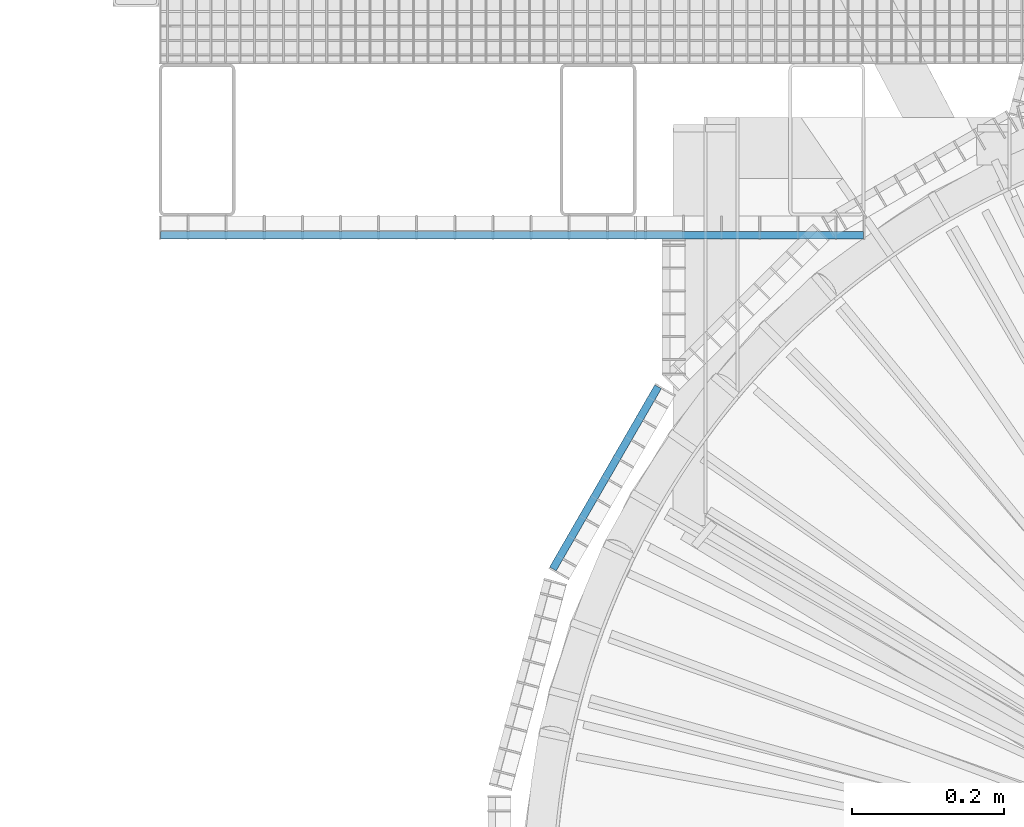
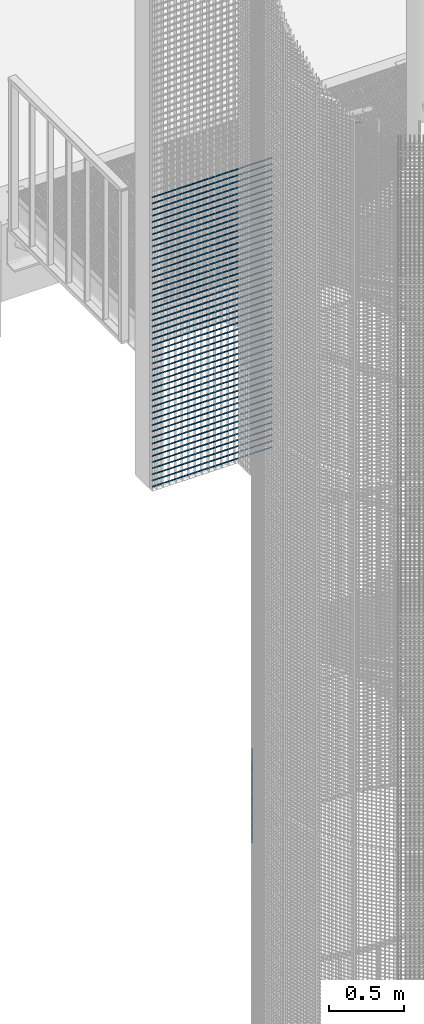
# One storey, part 209 of 1148: 68 beams, 2 elements without a shape of their own.
"""IFC2X3 building model written with IfcOpenShell, lengths in millimetres."""

from ifc_helpers import new_model, si_unit, frame, origin_with_axes, origin_2d_with_axis, place, context, subcontext, project, spatial, rectangle, extrude, material, type_object, element, aggregate, save


model = new_model("IFC2X3")

# Units and contexts
model_context = context("Model", 3, precision=1e-05, world=origin_with_axes())
body_context = subcontext(model_context, "Body", "Model", "MODEL_VIEW")
ifc_project = project(units=[si_unit("LENGTHUNIT", "METRE", prefix="MILLI"), si_unit("AREAUNIT", "SQUARE_METRE"), si_unit("VOLUMEUNIT", "CUBIC_METRE"), si_unit("MASSUNIT", "GRAM", prefix="KILO"), si_unit("TIMEUNIT", "SECOND"), si_unit("PLANEANGLEUNIT", "RADIAN"), si_unit("SOLIDANGLEUNIT", "STERADIAN"), si_unit("THERMODYNAMICTEMPERATUREUNIT", "DEGREE_CELSIUS"), si_unit("LUMINOUSINTENSITYUNIT", "LUMEN")], contexts=[model_context])

# Site, building, storey
site_placement = place(None, origin_with_axes())
site = spatial("IfcSite", under=ifc_project, at=site_placement, Name="Undefined", CompositionType="ELEMENT")
building_placement = place(site_placement, origin_with_axes())
building = spatial("IfcBuilding", under=site, at=building_placement, Name="Undefined", CompositionType="ELEMENT")
storey_placement = place(building_placement, origin_with_axes())
storey = spatial("IfcBuildingStorey", under=building, at=storey_placement, Name="Undefined", CompositionType="ELEMENT", Elevation=0.0)

# Assembly, beams
assembly_1_placement = place(storey_placement, origin_with_axes())
assembly_1 = element("IfcElementAssembly", 1, at=assembly_1_placement, inside=storey, Name="BORDURE", AssemblyPlace="NOTDEFINED", PredefinedType="NOTDEFINED")
ifc_material = material(Name="STEEL/S235JR")
beam_type = type_object("IfcBeamType", Name="PL2*10", PredefinedType="NOTDEFINED")
beam_1_placement = place(assembly_1_placement, frame((-1547.92041016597, 874.994689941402, 7554.998), z_axis=(0.0, -1.0, 0.0), x_axis=(1.0, 0.0, 0.0)))
beam_1 = element("IfcBeam", 2, at=beam_1_placement, type_object=beam_type, material=ifc_material, Name="ENTRETOISE", context=body_context, shape_type="SweptSolid", body=[
    extrude(rectangle(XDim=2.0, YDim=10.0, at=origin_2d_with_axis()), frame((922.0, 0.0, 0.0), z_axis=(-1.0, 0.0, 0.0), x_axis=(0.0, -1.0, 0.0)), (0.0, 0.0, 1.0), 922.0),
])
beam_2_placement = place(assembly_1_placement, frame((-1547.92041016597, 874.994689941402, 7504.998), z_axis=(0.0, -1.0, 0.0), x_axis=(1.0, 0.0, 0.0)))
beam_2 = element("IfcBeam", 3, at=beam_2_placement, type_object=beam_type, material=ifc_material, Name="ENTRETOISE", context=body_context, shape_type="SweptSolid", body=[
    extrude(rectangle(XDim=2.0, YDim=10.0, at=origin_2d_with_axis()), frame((922.0, 0.0, 0.0), z_axis=(-1.0, 0.0, 0.0), x_axis=(0.0, -1.0, 0.0)), (0.0, 0.0, 1.0), 922.0),
])
beam_3_placement = place(assembly_1_placement, frame((-1547.92041016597, 874.994689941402, 7454.998), z_axis=(0.0, -1.0, 0.0), x_axis=(1.0, 0.0, 0.0)))
beam_3 = element("IfcBeam", 4, at=beam_3_placement, type_object=beam_type, material=ifc_material, Name="ENTRETOISE", context=body_context, shape_type="SweptSolid", body=[
    extrude(rectangle(XDim=2.0, YDim=10.0, at=origin_2d_with_axis()), frame((922.0, 0.0, 0.0), z_axis=(-1.0, 0.0, 0.0), x_axis=(0.0, -1.0, 0.0)), (0.0, 0.0, 1.0), 922.0),
])
beam_4_placement = place(assembly_1_placement, frame((-1547.92041016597, 874.994689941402, 7404.998), z_axis=(0.0, -1.0, 0.0), x_axis=(1.0, 0.0, 0.0)))
beam_4 = element("IfcBeam", 5, at=beam_4_placement, type_object=beam_type, material=ifc_material, Name="ENTRETOISE", context=body_context, shape_type="SweptSolid", body=[
    extrude(rectangle(XDim=2.0, YDim=10.0, at=origin_2d_with_axis()), frame((922.0, 0.0, 0.0), z_axis=(-1.0, 0.0, 0.0), x_axis=(0.0, -1.0, 0.0)), (0.0, 0.0, 1.0), 922.0),
])
beam_5_placement = place(assembly_1_placement, frame((-1547.92041016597, 874.994689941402, 7354.998), z_axis=(0.0, -1.0, 0.0), x_axis=(1.0, 0.0, 0.0)))
beam_5 = element("IfcBeam", 6, at=beam_5_placement, type_object=beam_type, material=ifc_material, Name="ENTRETOISE", context=body_context, shape_type="SweptSolid", body=[
    extrude(rectangle(XDim=2.0, YDim=10.0, at=origin_2d_with_axis()), frame((922.0, 0.0, 0.0), z_axis=(-1.0, 0.0, 0.0), x_axis=(0.0, -1.0, 0.0)), (0.0, 0.0, 1.0), 922.0),
])
beam_6_placement = place(assembly_1_placement, frame((-1547.92041016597, 874.994689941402, 7304.998), z_axis=(0.0, -1.0, 0.0), x_axis=(1.0, 0.0, 0.0)))
beam_6 = element("IfcBeam", 7, at=beam_6_placement, type_object=beam_type, material=ifc_material, Name="ENTRETOISE", context=body_context, shape_type="SweptSolid", body=[
    extrude(rectangle(XDim=2.0, YDim=10.0, at=origin_2d_with_axis()), frame((922.0, 0.0, 0.0), z_axis=(-1.0, 0.0, 0.0), x_axis=(0.0, -1.0, 0.0)), (0.0, 0.0, 1.0), 922.0),
])
beam_7_placement = place(assembly_1_placement, frame((-1547.92041016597, 874.994689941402, 7254.998), z_axis=(0.0, -1.0, 0.0), x_axis=(1.0, 0.0, 0.0)))
beam_7 = element("IfcBeam", 8, at=beam_7_placement, type_object=beam_type, material=ifc_material, Name="ENTRETOISE", context=body_context, shape_type="SweptSolid", body=[
    extrude(rectangle(XDim=2.0, YDim=10.0, at=origin_2d_with_axis()), frame((922.0, 0.0, 0.0), z_axis=(-1.0, 0.0, 0.0), x_axis=(0.0, -1.0, 0.0)), (0.0, 0.0, 1.0), 922.0),
])
beam_8_placement = place(assembly_1_placement, frame((-1547.92041016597, 874.994689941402, 7204.998), z_axis=(0.0, -1.0, 0.0), x_axis=(1.0, 0.0, 0.0)))
beam_8 = element("IfcBeam", 9, at=beam_8_placement, type_object=beam_type, material=ifc_material, Name="ENTRETOISE", context=body_context, shape_type="SweptSolid", body=[
    extrude(rectangle(XDim=2.0, YDim=10.0, at=origin_2d_with_axis()), frame((922.0, 0.0, 0.0), z_axis=(-1.0, 0.0, 0.0), x_axis=(0.0, -1.0, 0.0)), (0.0, 0.0, 1.0), 922.0),
])
beam_9_placement = place(assembly_1_placement, frame((-1547.92041016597, 874.994689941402, 7154.998), z_axis=(0.0, -1.0, 0.0), x_axis=(1.0, 0.0, 0.0)))
beam_9 = element("IfcBeam", 10, at=beam_9_placement, type_object=beam_type, material=ifc_material, Name="ENTRETOISE", context=body_context, shape_type="SweptSolid", body=[
    extrude(rectangle(XDim=2.0, YDim=10.0, at=origin_2d_with_axis()), frame((922.0, 0.0, 0.0), z_axis=(-1.0, 0.0, 0.0), x_axis=(0.0, -1.0, 0.0)), (0.0, 0.0, 1.0), 922.0),
])
beam_10_placement = place(assembly_1_placement, frame((-1547.92041016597, 874.994689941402, 7104.998), z_axis=(0.0, -1.0, 0.0), x_axis=(1.0, 0.0, 0.0)))
beam_10 = element("IfcBeam", 11, at=beam_10_placement, type_object=beam_type, material=ifc_material, Name="ENTRETOISE", context=body_context, shape_type="SweptSolid", body=[
    extrude(rectangle(XDim=2.0, YDim=10.0, at=origin_2d_with_axis()), frame((922.0, 0.0, 0.0), z_axis=(-1.0, 0.0, 0.0), x_axis=(0.0, -1.0, 0.0)), (0.0, 0.0, 1.0), 922.0),
])
beam_11_placement = place(assembly_1_placement, frame((-1547.92041016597, 874.994689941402, 7054.998), z_axis=(0.0, -1.0, 0.0), x_axis=(1.0, 0.0, 0.0)))
beam_11 = element("IfcBeam", 12, at=beam_11_placement, type_object=beam_type, material=ifc_material, Name="ENTRETOISE", context=body_context, shape_type="SweptSolid", body=[
    extrude(rectangle(XDim=2.0, YDim=10.0, at=origin_2d_with_axis()), frame((922.0, 0.0, 0.0), z_axis=(-1.0, 0.0, 0.0), x_axis=(0.0, -1.0, 0.0)), (0.0, 0.0, 1.0), 922.0),
])
beam_12_placement = place(assembly_1_placement, frame((-1547.92041016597, 874.994689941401, 5904.998), z_axis=(0.0, -1.0, 0.0), x_axis=(1.0, 0.0, 0.0)))
beam_12 = element("IfcBeam", 13, at=beam_12_placement, type_object=beam_type, material=ifc_material, Name="ENTRETOISE", context=body_context, shape_type="SweptSolid", body=[
    extrude(rectangle(XDim=2.0, YDim=10.0, at=origin_2d_with_axis()), frame((922.0, 0.0, 0.0), z_axis=(-1.0, 0.0, 0.0), x_axis=(0.0, -1.0, 0.0)), (0.0, 0.0, 1.0), 922.0),
])
beam_13_placement = place(assembly_1_placement, frame((-1547.92041016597, 874.994689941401, 5954.998), z_axis=(0.0, -1.0, 0.0), x_axis=(1.0, 0.0, 0.0)))
beam_13 = element("IfcBeam", 14, at=beam_13_placement, type_object=beam_type, material=ifc_material, Name="ENTRETOISE", context=body_context, shape_type="SweptSolid", body=[
    extrude(rectangle(XDim=2.0, YDim=10.0, at=origin_2d_with_axis()), frame((922.0, 0.0, 0.0), z_axis=(-1.0, 0.0, 0.0), x_axis=(0.0, -1.0, 0.0)), (0.0, 0.0, 1.0), 922.0),
])
beam_14_placement = place(assembly_1_placement, frame((-1547.92041016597, 874.994689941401, 5854.998), z_axis=(0.0, -1.0, 0.0), x_axis=(1.0, 0.0, 0.0)))
beam_14 = element("IfcBeam", 15, at=beam_14_placement, type_object=beam_type, material=ifc_material, Name="ENTRETOISE", context=body_context, shape_type="SweptSolid", body=[
    extrude(rectangle(XDim=2.0, YDim=10.0, at=origin_2d_with_axis()), frame((922.0, 0.0, 0.0), z_axis=(-1.0, 0.0, 0.0), x_axis=(0.0, -1.0, 0.0)), (0.0, 0.0, 1.0), 922.0),
])
beam_15_placement = place(assembly_1_placement, frame((-1547.92041016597, 874.994689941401, 6004.998), z_axis=(0.0, -1.0, 0.0), x_axis=(1.0, 0.0, 0.0)))
beam_15 = element("IfcBeam", 16, at=beam_15_placement, type_object=beam_type, material=ifc_material, Name="ENTRETOISE", context=body_context, shape_type="SweptSolid", body=[
    extrude(rectangle(XDim=2.0, YDim=10.0, at=origin_2d_with_axis()), frame((922.0, 0.0, 0.0), z_axis=(-1.0, 0.0, 0.0), x_axis=(0.0, -1.0, 0.0)), (0.0, 0.0, 1.0), 922.0),
])
beam_16_placement = place(assembly_1_placement, frame((-1547.92041016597, 874.994689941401, 5804.998), z_axis=(0.0, -1.0, 0.0), x_axis=(1.0, 0.0, 0.0)))
beam_16 = element("IfcBeam", 17, at=beam_16_placement, type_object=beam_type, material=ifc_material, Name="ENTRETOISE", context=body_context, shape_type="SweptSolid", body=[
    extrude(rectangle(XDim=2.0, YDim=10.0, at=origin_2d_with_axis()), frame((922.0, 0.0, 0.0), z_axis=(-1.0, 0.0, 0.0), x_axis=(0.0, -1.0, 0.0)), (0.0, 0.0, 1.0), 922.0),
])
beam_17_placement = place(assembly_1_placement, frame((-1547.92041016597, 874.994689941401, 6054.998), z_axis=(0.0, -1.0, 0.0), x_axis=(1.0, 0.0, 0.0)))
beam_17 = element("IfcBeam", 18, at=beam_17_placement, type_object=beam_type, material=ifc_material, Name="ENTRETOISE", context=body_context, shape_type="SweptSolid", body=[
    extrude(rectangle(XDim=2.0, YDim=10.0, at=origin_2d_with_axis()), frame((922.0, 0.0, 0.0), z_axis=(-1.0, 0.0, 0.0), x_axis=(0.0, -1.0, 0.0)), (0.0, 0.0, 1.0), 922.0),
])
beam_18_placement = place(assembly_1_placement, frame((-1547.92041016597, 874.994689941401, 6104.998), z_axis=(0.0, -1.0, 0.0), x_axis=(1.0, 0.0, 0.0)))
beam_18 = element("IfcBeam", 19, at=beam_18_placement, type_object=beam_type, material=ifc_material, Name="ENTRETOISE", context=body_context, shape_type="SweptSolid", body=[
    extrude(rectangle(XDim=2.0, YDim=10.0, at=origin_2d_with_axis()), frame((922.0, 0.0, 0.0), z_axis=(-1.0, 0.0, 0.0), x_axis=(0.0, -1.0, 0.0)), (0.0, 0.0, 1.0), 922.0),
])
beam_19_placement = place(assembly_1_placement, frame((-1547.92041016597, 874.994689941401, 5754.998), z_axis=(0.0, -1.0, 0.0), x_axis=(1.0, 0.0, 0.0)))
beam_19 = element("IfcBeam", 20, at=beam_19_placement, type_object=beam_type, material=ifc_material, Name="ENTRETOISE", context=body_context, shape_type="SweptSolid", body=[
    extrude(rectangle(XDim=2.0, YDim=10.0, at=origin_2d_with_axis()), frame((922.0, 0.0, 0.0), z_axis=(-1.0, 0.0, 0.0), x_axis=(0.0, -1.0, 0.0)), (0.0, 0.0, 1.0), 922.0),
])
beam_20_placement = place(assembly_1_placement, frame((-1547.92041016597, 874.994689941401, 6154.998), z_axis=(0.0, -1.0, 0.0), x_axis=(1.0, 0.0, 0.0)))
beam_20 = element("IfcBeam", 21, at=beam_20_placement, type_object=beam_type, material=ifc_material, Name="ENTRETOISE", context=body_context, shape_type="SweptSolid", body=[
    extrude(rectangle(XDim=2.0, YDim=10.0, at=origin_2d_with_axis()), frame((922.0, 0.0, 0.0), z_axis=(-1.0, 0.0, 0.0), x_axis=(0.0, -1.0, 0.0)), (0.0, 0.0, 1.0), 922.0),
])
beam_21_placement = place(assembly_1_placement, frame((-1547.92041016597, 874.994689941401, 6204.998), z_axis=(0.0, -1.0, 0.0), x_axis=(1.0, 0.0, 0.0)))
beam_21 = element("IfcBeam", 22, at=beam_21_placement, type_object=beam_type, material=ifc_material, Name="ENTRETOISE", context=body_context, shape_type="SweptSolid", body=[
    extrude(rectangle(XDim=2.0, YDim=10.0, at=origin_2d_with_axis()), frame((922.0, 0.0, 0.0), z_axis=(-1.0, 0.0, 0.0), x_axis=(0.0, -1.0, 0.0)), (0.0, 0.0, 1.0), 922.0),
])
beam_22_placement = place(assembly_1_placement, frame((-1547.92041016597, 874.994689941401, 5704.998), z_axis=(0.0, -1.0, 0.0), x_axis=(1.0, 0.0, 0.0)))
beam_22 = element("IfcBeam", 23, at=beam_22_placement, type_object=beam_type, material=ifc_material, Name="ENTRETOISE", context=body_context, shape_type="SweptSolid", body=[
    extrude(rectangle(XDim=2.0, YDim=10.0, at=origin_2d_with_axis()), frame((922.0, 0.0, 0.0), z_axis=(-1.0, 0.0, 0.0), x_axis=(0.0, -1.0, 0.0)), (0.0, 0.0, 1.0), 922.0),
])
beam_23_placement = place(assembly_1_placement, frame((-1547.92041016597, 874.994689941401, 6254.998), z_axis=(0.0, -1.0, 0.0), x_axis=(1.0, 0.0, 0.0)))
beam_23 = element("IfcBeam", 24, at=beam_23_placement, type_object=beam_type, material=ifc_material, Name="ENTRETOISE", context=body_context, shape_type="SweptSolid", body=[
    extrude(rectangle(XDim=2.0, YDim=10.0, at=origin_2d_with_axis()), frame((922.0, 0.0, 0.0), z_axis=(-1.0, 0.0, 0.0), x_axis=(0.0, -1.0, 0.0)), (0.0, 0.0, 1.0), 922.0),
])
beam_24_placement = place(assembly_1_placement, frame((-1547.92041016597, 874.994689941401, 5654.998), z_axis=(0.0, -1.0, 0.0), x_axis=(1.0, 0.0, 0.0)))
beam_24 = element("IfcBeam", 25, at=beam_24_placement, type_object=beam_type, material=ifc_material, Name="ENTRETOISE", context=body_context, shape_type="SweptSolid", body=[
    extrude(rectangle(XDim=2.0, YDim=10.0, at=origin_2d_with_axis()), frame((922.0, 0.0, 0.0), z_axis=(-1.0, 0.0, 0.0), x_axis=(0.0, -1.0, 0.0)), (0.0, 0.0, 1.0), 922.0),
])
beam_25_placement = place(assembly_1_placement, frame((-1547.92041016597, 874.994689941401, 6304.998), z_axis=(0.0, -1.0, 0.0), x_axis=(1.0, 0.0, 0.0)))
beam_25 = element("IfcBeam", 26, at=beam_25_placement, type_object=beam_type, material=ifc_material, Name="ENTRETOISE", context=body_context, shape_type="SweptSolid", body=[
    extrude(rectangle(XDim=2.0, YDim=10.0, at=origin_2d_with_axis()), frame((922.0, 0.0, 0.0), z_axis=(-1.0, 0.0, 0.0), x_axis=(0.0, -1.0, 0.0)), (0.0, 0.0, 1.0), 922.0),
])
beam_26_placement = place(assembly_1_placement, frame((-1547.92041016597, 874.994689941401, 6354.998), z_axis=(0.0, -1.0, 0.0), x_axis=(1.0, 0.0, 0.0)))
beam_26 = element("IfcBeam", 27, at=beam_26_placement, type_object=beam_type, material=ifc_material, Name="ENTRETOISE", context=body_context, shape_type="SweptSolid", body=[
    extrude(rectangle(XDim=2.0, YDim=10.0, at=origin_2d_with_axis()), frame((922.0, 0.0, 0.0), z_axis=(-1.0, 0.0, 0.0), x_axis=(0.0, -1.0, 0.0)), (0.0, 0.0, 1.0), 922.0),
])
beam_27_placement = place(assembly_1_placement, frame((-1547.92041016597, 874.994689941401, 5604.998), z_axis=(0.0, -1.0, 0.0), x_axis=(1.0, 0.0, 0.0)))
beam_27 = element("IfcBeam", 28, at=beam_27_placement, type_object=beam_type, material=ifc_material, Name="ENTRETOISE", context=body_context, shape_type="SweptSolid", body=[
    extrude(rectangle(XDim=2.0, YDim=10.0, at=origin_2d_with_axis()), frame((922.0, 0.0, 0.0), z_axis=(-1.0, 0.0, 0.0), x_axis=(0.0, -1.0, 0.0)), (0.0, 0.0, 1.0), 922.0),
])
beam_28_placement = place(assembly_1_placement, frame((-1547.92041016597, 874.994689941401, 6404.998), z_axis=(0.0, -1.0, 0.0), x_axis=(1.0, 0.0, 0.0)))
beam_28 = element("IfcBeam", 29, at=beam_28_placement, type_object=beam_type, material=ifc_material, Name="ENTRETOISE", context=body_context, shape_type="SweptSolid", body=[
    extrude(rectangle(XDim=2.0, YDim=10.0, at=origin_2d_with_axis()), frame((922.0, 0.0, 0.0), z_axis=(-1.0, 0.0, 0.0), x_axis=(0.0, -1.0, 0.0)), (0.0, 0.0, 1.0), 922.0),
])
beam_29_placement = place(assembly_1_placement, frame((-1547.92041016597, 874.994689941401, 6454.998), z_axis=(0.0, -1.0, 0.0), x_axis=(1.0, 0.0, 0.0)))
beam_29 = element("IfcBeam", 30, at=beam_29_placement, type_object=beam_type, material=ifc_material, Name="ENTRETOISE", context=body_context, shape_type="SweptSolid", body=[
    extrude(rectangle(XDim=2.0, YDim=10.0, at=origin_2d_with_axis()), frame((922.0, 0.0, 0.0), z_axis=(-1.0, 0.0, 0.0), x_axis=(0.0, -1.0, 0.0)), (0.0, 0.0, 1.0), 922.0),
])
beam_30_placement = place(assembly_1_placement, frame((-1547.92041016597, 874.994689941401, 5554.998), z_axis=(0.0, -1.0, 0.0), x_axis=(1.0, 0.0, 0.0)))
beam_30 = element("IfcBeam", 31, at=beam_30_placement, type_object=beam_type, material=ifc_material, Name="ENTRETOISE", context=body_context, shape_type="SweptSolid", body=[
    extrude(rectangle(XDim=2.0, YDim=10.0, at=origin_2d_with_axis()), frame((922.0, 0.0, 0.0), z_axis=(-1.0, 0.0, 0.0), x_axis=(0.0, -1.0, 0.0)), (0.0, 0.0, 1.0), 922.0),
])
beam_31_placement = place(assembly_1_placement, frame((-1547.92041016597, 874.994689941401, 6504.998), z_axis=(0.0, -1.0, 0.0), x_axis=(1.0, 0.0, 0.0)))
beam_31 = element("IfcBeam", 32, at=beam_31_placement, type_object=beam_type, material=ifc_material, Name="ENTRETOISE", context=body_context, shape_type="SweptSolid", body=[
    extrude(rectangle(XDim=2.0, YDim=10.0, at=origin_2d_with_axis()), frame((922.0, 0.0, 0.0), z_axis=(-1.0, 0.0, 0.0), x_axis=(0.0, -1.0, 0.0)), (0.0, 0.0, 1.0), 922.0),
])
beam_32_placement = place(assembly_1_placement, frame((-1547.92041016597, 874.994689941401, 5504.998), z_axis=(0.0, -1.0, 0.0), x_axis=(1.0, 0.0, 0.0)))
beam_32 = element("IfcBeam", 33, at=beam_32_placement, type_object=beam_type, material=ifc_material, Name="ENTRETOISE", context=body_context, shape_type="SweptSolid", body=[
    extrude(rectangle(XDim=2.0, YDim=10.0, at=origin_2d_with_axis()), frame((922.0, 0.0, 0.0), z_axis=(-1.0, 0.0, 0.0), x_axis=(0.0, -1.0, 0.0)), (0.0, 0.0, 1.0), 922.0),
])
beam_33_placement = place(assembly_1_placement, frame((-1547.92041016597, 874.994689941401, 6554.998), z_axis=(0.0, -1.0, 0.0), x_axis=(1.0, 0.0, 0.0)))
beam_33 = element("IfcBeam", 34, at=beam_33_placement, type_object=beam_type, material=ifc_material, Name="ENTRETOISE", context=body_context, shape_type="SweptSolid", body=[
    extrude(rectangle(XDim=2.0, YDim=10.0, at=origin_2d_with_axis()), frame((922.0, 0.0, 0.0), z_axis=(-1.0, 0.0, 0.0), x_axis=(0.0, -1.0, 0.0)), (0.0, 0.0, 1.0), 922.0),
])
beam_34_placement = place(assembly_1_placement, frame((-1547.92041016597, 874.994689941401, 6604.998), z_axis=(0.0, -1.0, 0.0), x_axis=(1.0, 0.0, 0.0)))
beam_34 = element("IfcBeam", 35, at=beam_34_placement, type_object=beam_type, material=ifc_material, Name="ENTRETOISE", context=body_context, shape_type="SweptSolid", body=[
    extrude(rectangle(XDim=2.0, YDim=10.0, at=origin_2d_with_axis()), frame((922.0, 0.0, 0.0), z_axis=(-1.0, 0.0, 0.0), x_axis=(0.0, -1.0, 0.0)), (0.0, 0.0, 1.0), 922.0),
])
beam_35_placement = place(assembly_1_placement, frame((-1547.92041016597, 874.994689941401, 5454.998), z_axis=(0.0, -1.0, 0.0), x_axis=(1.0, 0.0, 0.0)))
beam_35 = element("IfcBeam", 36, at=beam_35_placement, type_object=beam_type, material=ifc_material, Name="ENTRETOISE", context=body_context, shape_type="SweptSolid", body=[
    extrude(rectangle(XDim=2.0, YDim=10.0, at=origin_2d_with_axis()), frame((922.0, 0.0, 0.0), z_axis=(-1.0, 0.0, 0.0), x_axis=(0.0, -1.0, 0.0)), (0.0, 0.0, 1.0), 922.0),
])
beam_36_placement = place(assembly_1_placement, frame((-1547.92041016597, 874.994689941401, 6654.998), z_axis=(0.0, -1.0, 0.0), x_axis=(1.0, 0.0, 0.0)))
beam_36 = element("IfcBeam", 37, at=beam_36_placement, type_object=beam_type, material=ifc_material, Name="ENTRETOISE", context=body_context, shape_type="SweptSolid", body=[
    extrude(rectangle(XDim=2.0, YDim=10.0, at=origin_2d_with_axis()), frame((922.0, 0.0, 0.0), z_axis=(-1.0, 0.0, 0.0), x_axis=(0.0, -1.0, 0.0)), (0.0, 0.0, 1.0), 922.0),
])
beam_37_placement = place(assembly_1_placement, frame((-1547.92041016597, 874.994689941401, 5404.998), z_axis=(0.0, -1.0, 0.0), x_axis=(1.0, 0.0, 0.0)))
beam_37 = element("IfcBeam", 38, at=beam_37_placement, type_object=beam_type, material=ifc_material, Name="ENTRETOISE", context=body_context, shape_type="SweptSolid", body=[
    extrude(rectangle(XDim=2.0, YDim=10.0, at=origin_2d_with_axis()), frame((922.0, 0.0, 0.0), z_axis=(-1.0, 0.0, 0.0), x_axis=(0.0, -1.0, 0.0)), (0.0, 0.0, 1.0), 922.0),
])
beam_38_placement = place(assembly_1_placement, frame((-1547.92041016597, 874.994689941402, 6704.998), z_axis=(0.0, -1.0, 0.0), x_axis=(1.0, 0.0, 0.0)))
beam_38 = element("IfcBeam", 39, at=beam_38_placement, type_object=beam_type, material=ifc_material, Name="ENTRETOISE", context=body_context, shape_type="SweptSolid", body=[
    extrude(rectangle(XDim=2.0, YDim=10.0, at=origin_2d_with_axis()), frame((922.0, 0.0, 0.0), z_axis=(-1.0, 0.0, 0.0), x_axis=(0.0, -1.0, 0.0)), (0.0, 0.0, 1.0), 922.0),
])
beam_39_placement = place(assembly_1_placement, frame((-1547.92041016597, 874.994689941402, 6754.998), z_axis=(0.0, -1.0, 0.0), x_axis=(1.0, 0.0, 0.0)))
beam_39 = element("IfcBeam", 40, at=beam_39_placement, type_object=beam_type, material=ifc_material, Name="ENTRETOISE", context=body_context, shape_type="SweptSolid", body=[
    extrude(rectangle(XDim=2.0, YDim=10.0, at=origin_2d_with_axis()), frame((922.0, 0.0, 0.0), z_axis=(-1.0, 0.0, 0.0), x_axis=(0.0, -1.0, 0.0)), (0.0, 0.0, 1.0), 922.0),
])
beam_40_placement = place(assembly_1_placement, frame((-1547.92041016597, 874.994689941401, 5354.998), z_axis=(0.0, -1.0, 0.0), x_axis=(1.0, 0.0, 0.0)))
beam_40 = element("IfcBeam", 41, at=beam_40_placement, type_object=beam_type, material=ifc_material, Name="ENTRETOISE", context=body_context, shape_type="SweptSolid", body=[
    extrude(rectangle(XDim=2.0, YDim=10.0, at=origin_2d_with_axis()), frame((922.0, 0.0, 0.0), z_axis=(-1.0, 0.0, 0.0), x_axis=(0.0, -1.0, 0.0)), (0.0, 0.0, 1.0), 922.0),
])
beam_41_placement = place(assembly_1_placement, frame((-1547.92041016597, 874.994689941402, 6804.998), z_axis=(0.0, -1.0, 0.0), x_axis=(1.0, 0.0, 0.0)))
beam_41 = element("IfcBeam", 42, at=beam_41_placement, type_object=beam_type, material=ifc_material, Name="ENTRETOISE", context=body_context, shape_type="SweptSolid", body=[
    extrude(rectangle(XDim=2.0, YDim=10.0, at=origin_2d_with_axis()), frame((922.0, 0.0, 0.0), z_axis=(-1.0, 0.0, 0.0), x_axis=(0.0, -1.0, 0.0)), (0.0, 0.0, 1.0), 922.0),
])
beam_42_placement = place(assembly_1_placement, frame((-1547.92041016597, 874.994689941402, 6854.998), z_axis=(0.0, -1.0, 0.0), x_axis=(1.0, 0.0, 0.0)))
beam_42 = element("IfcBeam", 43, at=beam_42_placement, type_object=beam_type, material=ifc_material, Name="ENTRETOISE", context=body_context, shape_type="SweptSolid", body=[
    extrude(rectangle(XDim=2.0, YDim=10.0, at=origin_2d_with_axis()), frame((922.0, 0.0, 0.0), z_axis=(-1.0, 0.0, 0.0), x_axis=(0.0, -1.0, 0.0)), (0.0, 0.0, 1.0), 922.0),
])
beam_43_placement = place(assembly_1_placement, frame((-1547.92041016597, 874.994689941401, 5304.998), z_axis=(0.0, -1.0, 0.0), x_axis=(1.0, 0.0, 0.0)))
beam_43 = element("IfcBeam", 44, at=beam_43_placement, type_object=beam_type, material=ifc_material, Name="ENTRETOISE", context=body_context, shape_type="SweptSolid", body=[
    extrude(rectangle(XDim=2.0, YDim=10.0, at=origin_2d_with_axis()), frame((922.0, 0.0, 0.0), z_axis=(-1.0, 0.0, 0.0), x_axis=(0.0, -1.0, 0.0)), (0.0, 0.0, 1.0), 922.0),
])
beam_44_placement = place(assembly_1_placement, frame((-1547.92041016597, 874.994689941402, 6904.998), z_axis=(0.0, -1.0, 0.0), x_axis=(1.0, 0.0, 0.0)))
beam_44 = element("IfcBeam", 45, at=beam_44_placement, type_object=beam_type, material=ifc_material, Name="ENTRETOISE", context=body_context, shape_type="SweptSolid", body=[
    extrude(rectangle(XDim=2.0, YDim=10.0, at=origin_2d_with_axis()), frame((922.0, 0.0, 0.0), z_axis=(-1.0, 0.0, 0.0), x_axis=(0.0, -1.0, 0.0)), (0.0, 0.0, 1.0), 922.0),
])
beam_45_placement = place(assembly_1_placement, frame((-1547.92041016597, 874.994689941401, 5254.998), z_axis=(0.0, -1.0, 0.0), x_axis=(1.0, 0.0, 0.0)))
beam_45 = element("IfcBeam", 46, at=beam_45_placement, type_object=beam_type, material=ifc_material, Name="ENTRETOISE", context=body_context, shape_type="SweptSolid", body=[
    extrude(rectangle(XDim=2.0, YDim=10.0, at=origin_2d_with_axis()), frame((922.0, 0.0, 0.0), z_axis=(-1.0, 0.0, 0.0), x_axis=(0.0, -1.0, 0.0)), (0.0, 0.0, 1.0), 922.0),
])
beam_46_placement = place(assembly_1_placement, frame((-1547.92041016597, 874.994689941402, 6954.998), z_axis=(0.0, -1.0, 0.0), x_axis=(1.0, 0.0, 0.0)))
beam_46 = element("IfcBeam", 47, at=beam_46_placement, type_object=beam_type, material=ifc_material, Name="ENTRETOISE", context=body_context, shape_type="SweptSolid", body=[
    extrude(rectangle(XDim=2.0, YDim=10.0, at=origin_2d_with_axis()), frame((922.0, 0.0, 0.0), z_axis=(-1.0, 0.0, 0.0), x_axis=(0.0, -1.0, 0.0)), (0.0, 0.0, 1.0), 922.0),
])
beam_47_placement = place(assembly_1_placement, frame((-1547.92041016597, 874.994689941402, 7004.998), z_axis=(0.0, -1.0, 0.0), x_axis=(1.0, 0.0, 0.0)))
beam_47 = element("IfcBeam", 48, at=beam_47_placement, type_object=beam_type, material=ifc_material, Name="ENTRETOISE", context=body_context, shape_type="SweptSolid", body=[
    extrude(rectangle(XDim=2.0, YDim=10.0, at=origin_2d_with_axis()), frame((922.0, 0.0, 0.0), z_axis=(-1.0, 0.0, 0.0), x_axis=(0.0, -1.0, 0.0)), (0.0, 0.0, 1.0), 922.0),
])
beam_48_placement = place(assembly_1_placement, frame((-1547.92041016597, 874.994689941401, 5204.998), z_axis=(0.0, -1.0, 0.0), x_axis=(1.0, 0.0, 0.0)))
beam_48 = element("IfcBeam", 49, at=beam_48_placement, type_object=beam_type, material=ifc_material, Name="ENTRETOISE", context=body_context, shape_type="SweptSolid", body=[
    extrude(rectangle(XDim=2.0, YDim=10.0, at=origin_2d_with_axis()), frame((922.0, 0.0, 0.0), z_axis=(-1.0, 0.0, 0.0), x_axis=(0.0, -1.0, 0.0)), (0.0, 0.0, 1.0), 922.0),
])
aggregate(assembly_1, [beam_1, beam_2, beam_3, beam_4, beam_5, beam_6, beam_7, beam_8, beam_9, beam_10, beam_11, beam_12, beam_13, beam_14, beam_15, beam_16, beam_17, beam_18, beam_19, beam_20, beam_21, beam_22, beam_23, beam_24, beam_25, beam_26, beam_27, beam_28, beam_29, beam_30, beam_31, beam_32, beam_33, beam_34, beam_35, beam_36, beam_37, beam_38, beam_39, beam_40, beam_41, beam_42, beam_43, beam_44, beam_45, beam_46, beam_47, beam_48])

assembly_2_placement = place(storey_placement, origin_with_axes())
assembly_2 = element("IfcElementAssembly", 50, at=assembly_2_placement, inside=storey, Name="BORDURE", AssemblyPlace="NOTDEFINED", PredefinedType="NOTDEFINED")
beam_49_placement = place(assembly_2_placement, frame((-895.303964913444, 676.248044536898, 2970.0), z_axis=(-0.866025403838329, 0.499999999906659, 0.0), x_axis=(-0.49999999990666, -0.866025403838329, 0.0)))
beam_49 = element("IfcBeam", 51, at=beam_49_placement, type_object=beam_type, material=ifc_material, Name="ENTRETOISE", context=body_context, shape_type="SweptSolid", body=[
    extrude(rectangle(XDim=2.0, YDim=10.0, at=origin_2d_with_axis()), frame((275.999999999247, 9.09494701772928e-13, 1.53210777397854e-14), z_axis=(-1.0, 0.0, 0.0), x_axis=(0.0, -1.0, 0.0)), (0.0, 0.0, 1.0), 276.0),
])
beam_50_placement = place(assembly_2_placement, frame((-895.303964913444, 676.248044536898, 2940.0), z_axis=(-0.866025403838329, 0.499999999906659, 0.0), x_axis=(-0.49999999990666, -0.866025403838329, 0.0)))
beam_50 = element("IfcBeam", 52, at=beam_50_placement, type_object=beam_type, material=ifc_material, Name="ENTRETOISE", context=body_context, shape_type="SweptSolid", body=[
    extrude(rectangle(XDim=2.0, YDim=10.0, at=origin_2d_with_axis()), frame((275.999999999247, 9.09494701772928e-13, 1.53210777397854e-14), z_axis=(-1.0, 0.0, 0.0), x_axis=(0.0, -1.0, 0.0)), (0.0, 0.0, 1.0), 276.0),
])
beam_51_placement = place(assembly_2_placement, frame((-895.303964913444, 676.248044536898, 2910.0), z_axis=(-0.866025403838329, 0.499999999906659, 0.0), x_axis=(-0.49999999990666, -0.866025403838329, 0.0)))
beam_51 = element("IfcBeam", 53, at=beam_51_placement, type_object=beam_type, material=ifc_material, Name="ENTRETOISE", context=body_context, shape_type="SweptSolid", body=[
    extrude(rectangle(XDim=2.0, YDim=10.0, at=origin_2d_with_axis()), frame((275.999999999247, 9.09494701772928e-13, 1.53210777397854e-14), z_axis=(-1.0, 0.0, 0.0), x_axis=(0.0, -1.0, 0.0)), (0.0, 0.0, 1.0), 276.0),
])
beam_52_placement = place(assembly_2_placement, frame((-895.303964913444, 676.248044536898, 2880.0), z_axis=(-0.866025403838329, 0.499999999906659, 0.0), x_axis=(-0.49999999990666, -0.866025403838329, 0.0)))
beam_52 = element("IfcBeam", 54, at=beam_52_placement, type_object=beam_type, material=ifc_material, Name="ENTRETOISE", context=body_context, shape_type="SweptSolid", body=[
    extrude(rectangle(XDim=2.0, YDim=10.0, at=origin_2d_with_axis()), frame((275.999999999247, 9.09494701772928e-13, 1.53210777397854e-14), z_axis=(-1.0, 0.0, 0.0), x_axis=(0.0, -1.0, 0.0)), (0.0, 0.0, 1.0), 276.0),
])
beam_53_placement = place(assembly_2_placement, frame((-895.303964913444, 676.248044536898, 2850.0), z_axis=(-0.866025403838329, 0.499999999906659, 0.0), x_axis=(-0.49999999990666, -0.866025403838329, 0.0)))
beam_53 = element("IfcBeam", 55, at=beam_53_placement, type_object=beam_type, material=ifc_material, Name="ENTRETOISE", context=body_context, shape_type="SweptSolid", body=[
    extrude(rectangle(XDim=2.0, YDim=10.0, at=origin_2d_with_axis()), frame((275.999999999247, 9.09494701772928e-13, 1.53210777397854e-14), z_axis=(-1.0, 0.0, 0.0), x_axis=(0.0, -1.0, 0.0)), (0.0, 0.0, 1.0), 276.0),
])
beam_54_placement = place(assembly_2_placement, frame((-895.303964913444, 676.248044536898, 2820.0), z_axis=(-0.866025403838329, 0.499999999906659, 0.0), x_axis=(-0.49999999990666, -0.866025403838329, 0.0)))
beam_54 = element("IfcBeam", 56, at=beam_54_placement, type_object=beam_type, material=ifc_material, Name="ENTRETOISE", context=body_context, shape_type="SweptSolid", body=[
    extrude(rectangle(XDim=2.0, YDim=10.0, at=origin_2d_with_axis()), frame((275.999999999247, 9.09494701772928e-13, 1.53210777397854e-14), z_axis=(-1.0, 0.0, 0.0), x_axis=(0.0, -1.0, 0.0)), (0.0, 0.0, 1.0), 276.0),
])
beam_55_placement = place(assembly_2_placement, frame((-895.303964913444, 676.248044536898, 2790.0), z_axis=(-0.866025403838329, 0.499999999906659, 0.0), x_axis=(-0.49999999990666, -0.866025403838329, 0.0)))
beam_55 = element("IfcBeam", 57, at=beam_55_placement, type_object=beam_type, material=ifc_material, Name="ENTRETOISE", context=body_context, shape_type="SweptSolid", body=[
    extrude(rectangle(XDim=2.0, YDim=10.0, at=origin_2d_with_axis()), frame((275.999999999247, 9.09494701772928e-13, 1.53210777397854e-14), z_axis=(-1.0, 0.0, 0.0), x_axis=(0.0, -1.0, 0.0)), (0.0, 0.0, 1.0), 276.0),
])
beam_56_placement = place(assembly_2_placement, frame((-895.303964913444, 676.248044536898, 2760.0), z_axis=(-0.866025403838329, 0.499999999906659, 0.0), x_axis=(-0.49999999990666, -0.866025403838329, 0.0)))
beam_56 = element("IfcBeam", 58, at=beam_56_placement, type_object=beam_type, material=ifc_material, Name="ENTRETOISE", context=body_context, shape_type="SweptSolid", body=[
    extrude(rectangle(XDim=2.0, YDim=10.0, at=origin_2d_with_axis()), frame((275.999999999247, 9.09494701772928e-13, 1.53210777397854e-14), z_axis=(-1.0, 0.0, 0.0), x_axis=(0.0, -1.0, 0.0)), (0.0, 0.0, 1.0), 276.0),
])
beam_57_placement = place(assembly_2_placement, frame((-895.303964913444, 676.248044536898, 2730.0), z_axis=(-0.866025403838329, 0.499999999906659, 0.0), x_axis=(-0.49999999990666, -0.866025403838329, 0.0)))
beam_57 = element("IfcBeam", 59, at=beam_57_placement, type_object=beam_type, material=ifc_material, Name="ENTRETOISE", context=body_context, shape_type="SweptSolid", body=[
    extrude(rectangle(XDim=2.0, YDim=10.0, at=origin_2d_with_axis()), frame((275.999999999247, 9.09494701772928e-13, 1.53210777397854e-14), z_axis=(-1.0, 0.0, 0.0), x_axis=(0.0, -1.0, 0.0)), (0.0, 0.0, 1.0), 276.0),
])
beam_58_placement = place(assembly_2_placement, frame((-895.303964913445, 676.248044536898, 2700.0), z_axis=(-0.866025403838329, 0.499999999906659, 0.0), x_axis=(-0.49999999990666, -0.866025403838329, 0.0)))
beam_58 = element("IfcBeam", 60, at=beam_58_placement, type_object=beam_type, material=ifc_material, Name="ENTRETOISE", context=body_context, shape_type="SweptSolid", body=[
    extrude(rectangle(XDim=2.0, YDim=10.0, at=origin_2d_with_axis()), frame((275.999999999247, 9.09494701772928e-13, 1.53210777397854e-14), z_axis=(-1.0, 0.0, 0.0), x_axis=(0.0, -1.0, 0.0)), (0.0, 0.0, 1.0), 276.0),
])
beam_59_placement = place(assembly_2_placement, frame((-895.303964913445, 676.248044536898, 2670.0), z_axis=(-0.866025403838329, 0.499999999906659, 0.0), x_axis=(-0.49999999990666, -0.866025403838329, 0.0)))
beam_59 = element("IfcBeam", 61, at=beam_59_placement, type_object=beam_type, material=ifc_material, Name="ENTRETOISE", context=body_context, shape_type="SweptSolid", body=[
    extrude(rectangle(XDim=2.0, YDim=10.0, at=origin_2d_with_axis()), frame((275.999999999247, 9.09494701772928e-13, 1.53210777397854e-14), z_axis=(-1.0, 0.0, 0.0), x_axis=(0.0, -1.0, 0.0)), (0.0, 0.0, 1.0), 276.0),
])
beam_60_placement = place(assembly_2_placement, frame((-895.303964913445, 676.248044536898, 2640.0), z_axis=(-0.866025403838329, 0.499999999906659, 0.0), x_axis=(-0.49999999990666, -0.866025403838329, 0.0)))
beam_60 = element("IfcBeam", 62, at=beam_60_placement, type_object=beam_type, material=ifc_material, Name="ENTRETOISE", context=body_context, shape_type="SweptSolid", body=[
    extrude(rectangle(XDim=2.0, YDim=10.0, at=origin_2d_with_axis()), frame((275.999999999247, 9.09494701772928e-13, 1.53210777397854e-14), z_axis=(-1.0, 0.0, 0.0), x_axis=(0.0, -1.0, 0.0)), (0.0, 0.0, 1.0), 276.0),
])
beam_61_placement = place(assembly_2_placement, frame((-895.303964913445, 676.248044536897, 2610.0), z_axis=(-0.866025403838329, 0.499999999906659, 0.0), x_axis=(-0.49999999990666, -0.866025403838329, 0.0)))
beam_61 = element("IfcBeam", 63, at=beam_61_placement, type_object=beam_type, material=ifc_material, Name="ENTRETOISE", context=body_context, shape_type="SweptSolid", body=[
    extrude(rectangle(XDim=2.0, YDim=10.0, at=origin_2d_with_axis()), frame((275.999999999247, 9.09494701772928e-13, 1.53210777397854e-14), z_axis=(-1.0, 0.0, 0.0), x_axis=(0.0, -1.0, 0.0)), (0.0, 0.0, 1.0), 276.0),
])
beam_62_placement = place(assembly_2_placement, frame((-895.303964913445, 676.248044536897, 2580.0), z_axis=(-0.866025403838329, 0.499999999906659, 0.0), x_axis=(-0.49999999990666, -0.866025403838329, 0.0)))
beam_62 = element("IfcBeam", 64, at=beam_62_placement, type_object=beam_type, material=ifc_material, Name="ENTRETOISE", context=body_context, shape_type="SweptSolid", body=[
    extrude(rectangle(XDim=2.0, YDim=10.0, at=origin_2d_with_axis()), frame((275.999999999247, 9.09494701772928e-13, 1.53210777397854e-14), z_axis=(-1.0, 0.0, 0.0), x_axis=(0.0, -1.0, 0.0)), (0.0, 0.0, 1.0), 276.0),
])
beam_63_placement = place(assembly_2_placement, frame((-895.303964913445, 676.248044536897, 2550.0), z_axis=(-0.866025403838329, 0.499999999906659, 0.0), x_axis=(-0.49999999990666, -0.866025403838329, 0.0)))
beam_63 = element("IfcBeam", 65, at=beam_63_placement, type_object=beam_type, material=ifc_material, Name="ENTRETOISE", context=body_context, shape_type="SweptSolid", body=[
    extrude(rectangle(XDim=2.0, YDim=10.0, at=origin_2d_with_axis()), frame((275.999999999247, 9.09494701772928e-13, 1.53210777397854e-14), z_axis=(-1.0, 0.0, 0.0), x_axis=(0.0, -1.0, 0.0)), (0.0, 0.0, 1.0), 276.0),
])
beam_64_placement = place(assembly_2_placement, frame((-895.303964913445, 676.248044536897, 2520.0), z_axis=(-0.866025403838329, 0.499999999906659, 0.0), x_axis=(-0.49999999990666, -0.866025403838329, 0.0)))
beam_64 = element("IfcBeam", 66, at=beam_64_placement, type_object=beam_type, material=ifc_material, Name="ENTRETOISE", context=body_context, shape_type="SweptSolid", body=[
    extrude(rectangle(XDim=2.0, YDim=10.0, at=origin_2d_with_axis()), frame((275.999999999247, 9.09494701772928e-13, 1.53210777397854e-14), z_axis=(-1.0, 0.0, 0.0), x_axis=(0.0, -1.0, 0.0)), (0.0, 0.0, 1.0), 276.0),
])
beam_65_placement = place(assembly_2_placement, frame((-895.303964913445, 676.248044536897, 2490.0), z_axis=(-0.866025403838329, 0.499999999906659, 0.0), x_axis=(-0.49999999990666, -0.866025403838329, 0.0)))
beam_65 = element("IfcBeam", 67, at=beam_65_placement, type_object=beam_type, material=ifc_material, Name="ENTRETOISE", context=body_context, shape_type="SweptSolid", body=[
    extrude(rectangle(XDim=2.0, YDim=10.0, at=origin_2d_with_axis()), frame((275.999999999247, 9.09494701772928e-13, 1.53210777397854e-14), z_axis=(-1.0, 0.0, 0.0), x_axis=(0.0, -1.0, 0.0)), (0.0, 0.0, 1.0), 276.0),
])
beam_66_placement = place(assembly_2_placement, frame((-895.303964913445, 676.248044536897, 2460.0), z_axis=(-0.866025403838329, 0.499999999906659, 0.0), x_axis=(-0.49999999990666, -0.866025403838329, 0.0)))
beam_66 = element("IfcBeam", 68, at=beam_66_placement, type_object=beam_type, material=ifc_material, Name="ENTRETOISE", context=body_context, shape_type="SweptSolid", body=[
    extrude(rectangle(XDim=2.0, YDim=10.0, at=origin_2d_with_axis()), frame((275.999999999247, 9.09494701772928e-13, 1.53210777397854e-14), z_axis=(-1.0, 0.0, 0.0), x_axis=(0.0, -1.0, 0.0)), (0.0, 0.0, 1.0), 276.0),
])
beam_67_placement = place(assembly_2_placement, frame((-895.303964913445, 676.248044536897, 2430.0), z_axis=(-0.866025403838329, 0.499999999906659, 0.0), x_axis=(-0.49999999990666, -0.866025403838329, 0.0)))
beam_67 = element("IfcBeam", 69, at=beam_67_placement, type_object=beam_type, material=ifc_material, Name="ENTRETOISE", context=body_context, shape_type="SweptSolid", body=[
    extrude(rectangle(XDim=2.0, YDim=10.0, at=origin_2d_with_axis()), frame((275.999999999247, 9.09494701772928e-13, 1.53210777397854e-14), z_axis=(-1.0, 0.0, 0.0), x_axis=(0.0, -1.0, 0.0)), (0.0, 0.0, 1.0), 276.0),
])
beam_68_placement = place(assembly_2_placement, frame((-895.303964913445, 676.248044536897, 2400.0), z_axis=(-0.866025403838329, 0.499999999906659, 0.0), x_axis=(-0.49999999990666, -0.866025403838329, 0.0)))
beam_68 = element("IfcBeam", 70, at=beam_68_placement, type_object=beam_type, material=ifc_material, Name="ENTRETOISE", context=body_context, shape_type="SweptSolid", body=[
    extrude(rectangle(XDim=2.0, YDim=10.0, at=origin_2d_with_axis()), frame((275.999999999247, 9.09494701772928e-13, 1.53210777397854e-14), z_axis=(-1.0, 0.0, 0.0), x_axis=(0.0, -1.0, 0.0)), (0.0, 0.0, 1.0), 276.0),
])
aggregate(assembly_2, [beam_49, beam_50, beam_51, beam_52, beam_53, beam_54, beam_55, beam_56, beam_57, beam_58, beam_59, beam_60, beam_61, beam_62, beam_63, beam_64, beam_65, beam_66, beam_67, beam_68])

save(model, "model.ifc")
